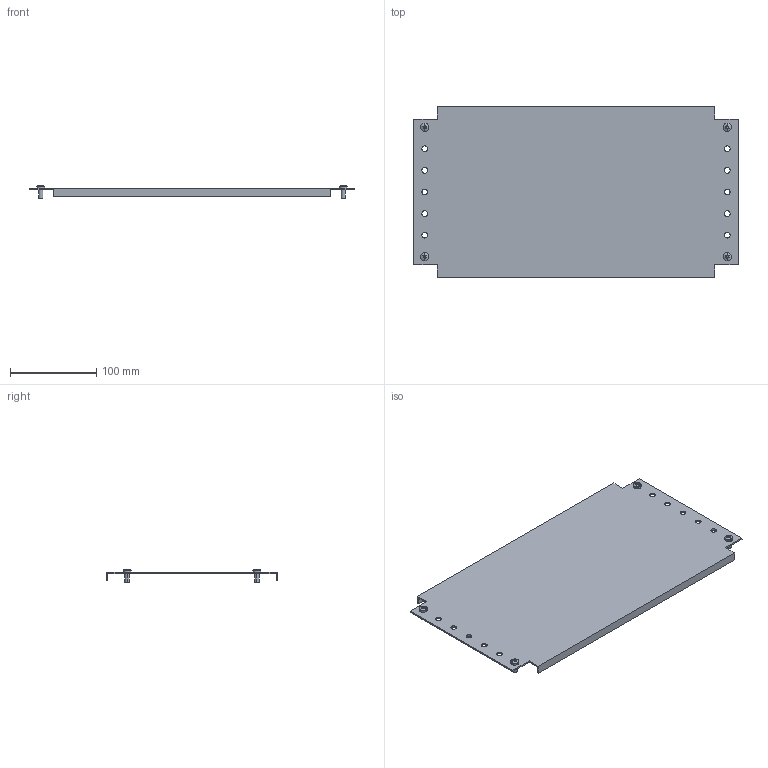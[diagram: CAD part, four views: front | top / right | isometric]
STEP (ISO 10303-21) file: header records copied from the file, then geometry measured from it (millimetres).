
FILE_DESCRIPTION (( 'STEP AP203' ), '1' );
FILE_NAME ('R6MPP02450.STEP', '2025-05-16T08:09:17', ( '' ), ( '' ), 'SwSTEP 2.0', 'SolidWorks 2022', '' );
FILE_SCHEMA (( 'CONFIG_CONTROL_DESIGN' ));
Length unit declared in the file: millimetre
Products named in the file (3): M5x12 DIN 7500 C Torx Zinc_stright; RB.3313.00.00.0 simple_-01; R6MPP02450
Assembly tree (5 placements, depth 2):
  R6MPP02450
    RB.3313.00.00.0 simple_-01
    M5x12 DIN 7500 C Torx Zinc_stright  x4
Bounding box: 375 x 198 x 15.56 mm (x, y, z)
Volume: 141051.8 mm3; surface area: 159196.5 mm2
Topology: 5 solids, 5 shells, 150 faces, 356 edges, 212 vertices
Faces by surface type: plane 58, cylinder 44, cone 16, torus 16, bspline 8, sphere 8
Entity records: 3055 total; most frequent: CARTESIAN_POINT 633, DIRECTION 446, ORIENTED_EDGE 408, EDGE_CURVE 204, AXIS2_PLACEMENT_3D 168, VERTEX_POINT 131, VECTOR 110, LINE 110
